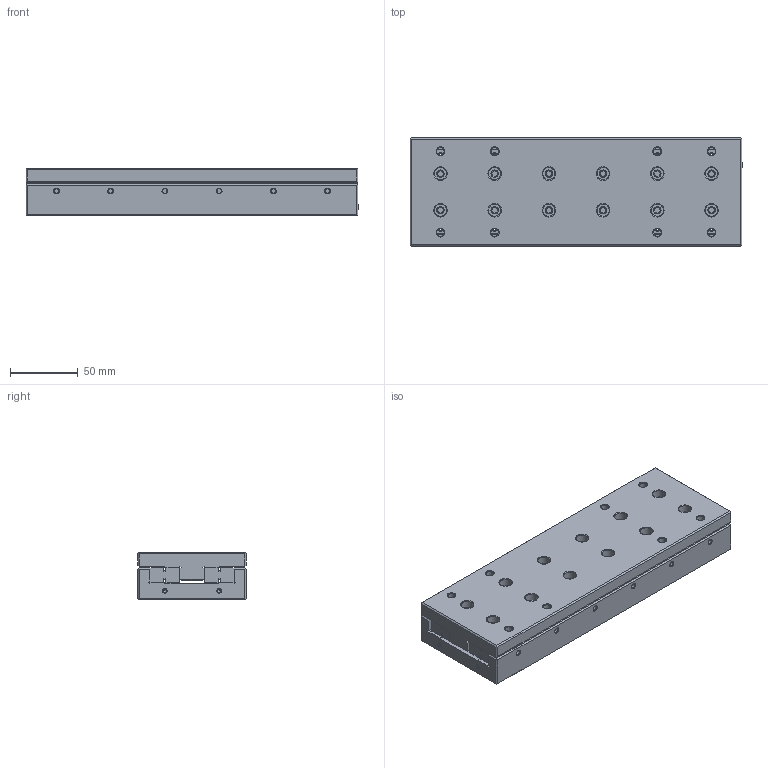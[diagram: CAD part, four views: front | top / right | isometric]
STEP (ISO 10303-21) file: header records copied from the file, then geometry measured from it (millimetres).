
FILE_DESCRIPTION(/* description */ (''),/* implementation_level */ '2;1');
FILE_NAME(/* name */ 'cru4245_asm_stp.stp',/* time_stamp */ '2017-01-25T13:40:35+08:00',/* author */ (''),/* organization */ (''),/* preprocessor_version */ 'ST-DEVELOPER v15',/* originating_system */ 'SIEMENS PLM Software NX 8.5',/* authorisation */ '');
FILE_SCHEMA (('AUTOMOTIVE_DESIGN { 1 0 10303 214 3 1 1 1 }'));
Length unit declared in the file: millimetre
Products named in the file (4): CRU4205-02; CRU4205-GV4200; CRU4205-01; cru4245_asm_stp
Assembly tree (4 placements, depth 2):
  cru4245_asm_stp
    CRU4205-01
    CRU4205-GV4200  x2
    CRU4205-02
Bounding box: 245 x 80 x 35 mm (x, y, z)
Volume: 621817.1 mm3; surface area: 164453.1 mm2
Topology: 4 solids, 4 shells, 456 faces, 1216 edges, 815 vertices
Faces by surface type: plane 169, cone 150, cylinder 137
Full cylindrical faces by diameter (mm): 2.5 x4, 3.3 x7, 4.2 x36, 5.5 x32, 8 x24, 9 x32
Entity records: 9962 total; most frequent: DIRECTION 1768, CARTESIAN_POINT 1620, ORIENTED_EDGE 1302, EDGE_LOOP 766, AXIS2_PLACEMENT_3D 742, FACE_BOUND 680, EDGE_CURVE 651, VERTEX_POINT 544
